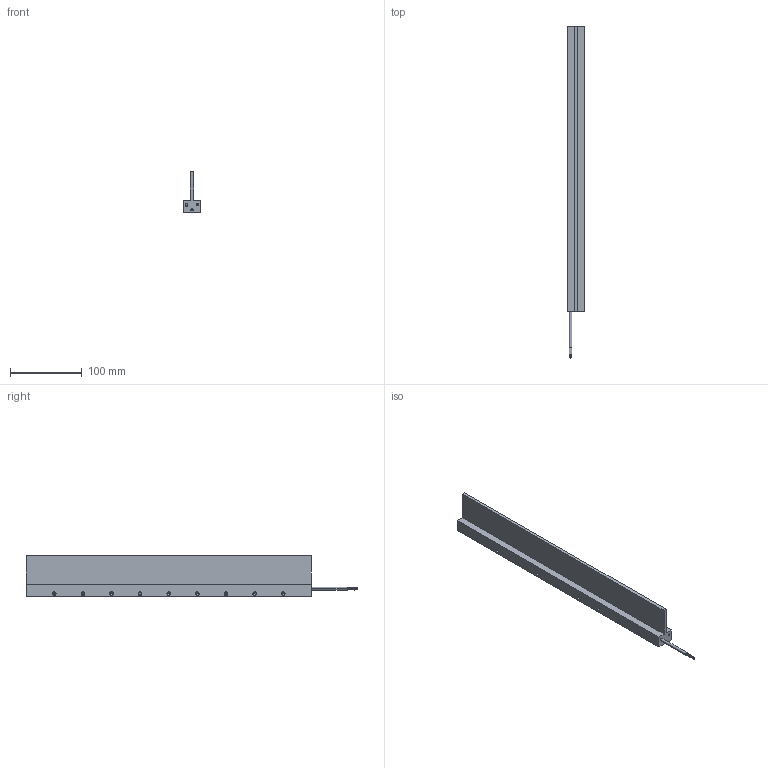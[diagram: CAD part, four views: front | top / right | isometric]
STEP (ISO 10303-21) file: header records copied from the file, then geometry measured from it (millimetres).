
FILE_DESCRIPTION((''),'2;1');
FILE_NAME('IL24-030','2006-04-05T',('saurabh.singhal'),('Kollmorgen'),'PRO/ENGINEER BY PARAMETRIC TECHNOLOGY CORPORATION, 2005310','PRO/ENGINEER BY PARAMETRIC TECHNOLOGY CORPORATION, 2005310','');
FILE_SCHEMA(('CONFIG_CONTROL_DESIGN'));
Length unit declared in the file: millimetre
Products named in the file (1): IL24-030
Bounding box: 24.4 x 463.8 x 57.3 mm (x, y, z)
Volume: 233858.7 mm3; surface area: 73106.2 mm2
Topology: 1 solids, 41 shells, 329 faces, 822 edges, 508 vertices
Faces by surface type: cylinder 186, cone 80, plane 63
Entity records: 9415 total; most frequent: DIRECTION 1854, CARTESIAN_POINT 1580, ORIENTED_EDGE 1324, AXIS2_PLACEMENT_3D 782, EDGE_CURVE 742, VERTEX_POINT 508, CIRCLE 452, EDGE_LOOP 422
